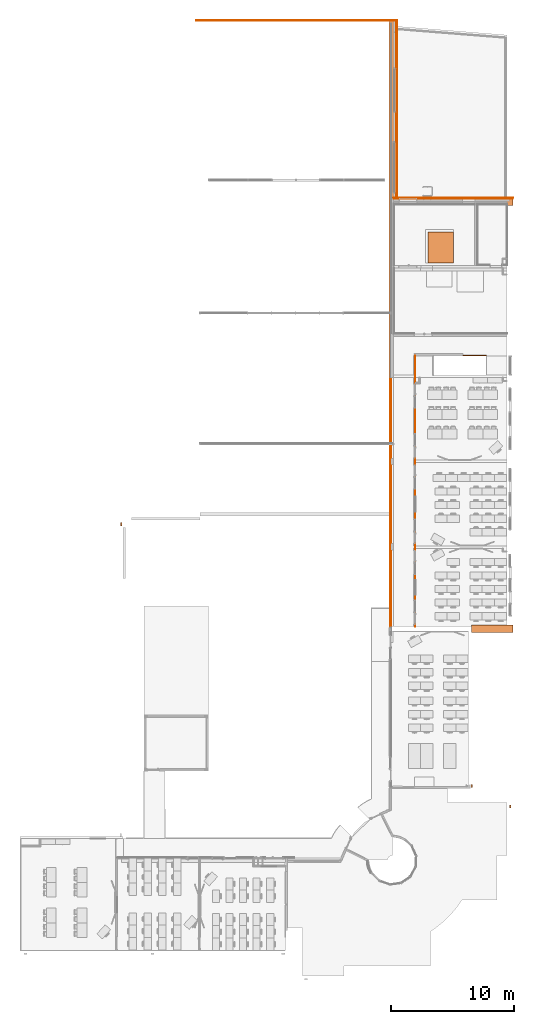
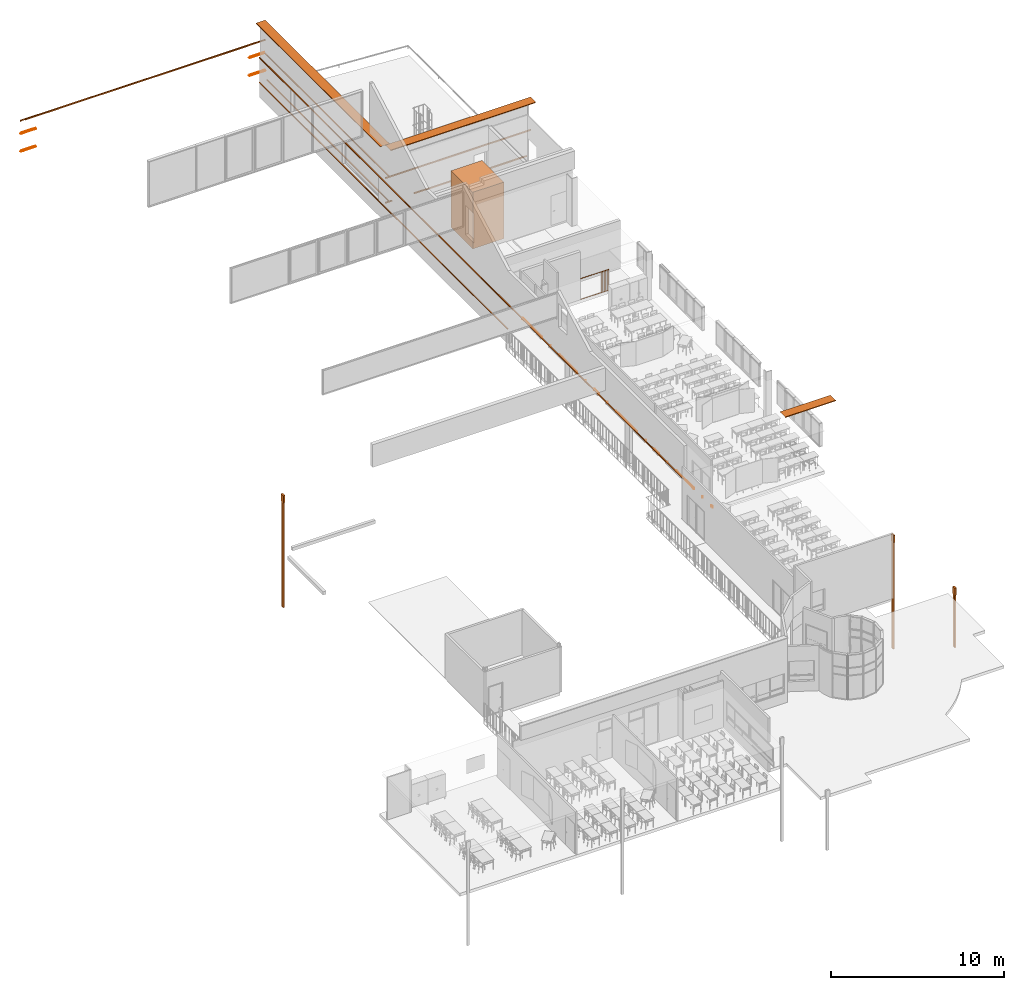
# One storey, part 44 of 44: 18 proxies.
"""IFC2X3 building model written with IfcOpenShell, lengths in centimetres."""

from ifc_helpers import new_model, entity, si_unit, converted_unit, derived_unit, direction, frame, frame_2d, origin, origin_2d_with_axis, place, context, subcontext, project, spatial, polyline, rectangle, circle, outline, extrude, source, transform, mapped, material, type_object, type_shapes, element, save


model = new_model("IFC2X3")

# Units and contexts
model_context = context("Model", 3, precision=0.001, world=origin(), true_north=direction((6.12303176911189e-17, 1.0)))
body_context = subcontext(model_context, "Body", "Model", "MODEL_VIEW")
ifc_project = project(units=[si_unit("LENGTHUNIT", "METRE", prefix="CENTI"), si_unit("AREAUNIT", "SQUARE_METRE"), si_unit("VOLUMEUNIT", "CUBIC_METRE"), converted_unit("PLANEANGLEUNIT", "DEGREE", entity("IfcRatioMeasure", 0.0174532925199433), si_unit("PLANEANGLEUNIT", "RADIAN"), dimensions=[0, 0, 0, 0, 0, 0, 0]), si_unit("MASSUNIT", "GRAM", prefix="KILO"), si_unit("TIMEUNIT", "SECOND"), si_unit("FREQUENCYUNIT", "HERTZ"), si_unit("THERMODYNAMICTEMPERATUREUNIT", "DEGREE_CELSIUS"), derived_unit("THERMALTRANSMITTANCEUNIT", [(si_unit("MASSUNIT", "GRAM", prefix="KILO"), 1), (si_unit("THERMODYNAMICTEMPERATUREUNIT", "KELVIN"), -1), (si_unit("TIMEUNIT", "SECOND"), -3)]), derived_unit("VOLUMETRICFLOWRATEUNIT", [(si_unit("LENGTHUNIT", "METRE"), 3), (si_unit("TIMEUNIT", "SECOND"), -1)]), si_unit("ELECTRICCURRENTUNIT", "AMPERE"), si_unit("ELECTRICVOLTAGEUNIT", "VOLT"), si_unit("POWERUNIT", "WATT"), si_unit("FORCEUNIT", "NEWTON", prefix="KILO"), si_unit("ILLUMINANCEUNIT", "LUX"), si_unit("LUMINOUSFLUXUNIT", "LUMEN"), si_unit("LUMINOUSINTENSITYUNIT", "CANDELA"), derived_unit("USERDEFINED", [(si_unit("MASSUNIT", "GRAM", prefix="KILO"), -1), (si_unit("LENGTHUNIT", "METRE"), -2), (si_unit("TIMEUNIT", "SECOND"), 3), (si_unit("LUMINOUSFLUXUNIT", "LUMEN"), 1)]), derived_unit("LINEARVELOCITYUNIT", [(si_unit("LENGTHUNIT", "METRE"), 1), (si_unit("TIMEUNIT", "SECOND"), -1)]), si_unit("PRESSUREUNIT", "PASCAL"), derived_unit("USERDEFINED", [(si_unit("LENGTHUNIT", "METRE"), -2), (si_unit("MASSUNIT", "GRAM", prefix="KILO"), 1), (si_unit("TIMEUNIT", "SECOND"), -2)])], contexts=[model_context])

# Site, building, storey
site_placement = place(None, frame((8.62739174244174, -249.285249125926, 0.0)))
site = spatial("IfcSite", under=ifc_project, at=site_placement, Name="Default", CompositionType="ELEMENT")
building_placement = place(site_placement, origin())
building = spatial("IfcBuilding", under=site, at=building_placement, CompositionType="ELEMENT")
storey_placement = place(building_placement, frame((0.0, 0.0, 343.0)))
storey = spatial("IfcBuildingStorey", under=building, at=storey_placement, Name="R+1", CompositionType="ELEMENT", Elevation=343.0)

# Proxies
ifc_material = material(Name="Forme par défaut")
building_element_proxy_type_1 = type_object("IfcBuildingElementProxyType", Name="Multi-cyclone", PredefinedType="NOTDEFINED", material=ifc_material)
shared_shape_1 = source(origin(), body_context, "Body", "SweptSolid", [
    extrude(rectangle(XDim=207.2, YDim=252.9, at=frame_2d((-2.1316282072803e-13, 0.0), x_axis=(1.0, 0.0))), frame((3438.57372225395, 5741.41731689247, 343.0), z_axis=(0.0, 0.0, 1.0), x_axis=(-1.0, 0.0, 0.0)), (0.0, 0.0, 1.0), 400.0),
])
type_shapes(building_element_proxy_type_1, [shared_shape_1])
proxy_1_placement = place(storey_placement, frame((0.0, 0.0, -343.0)))
element("IfcBuildingElementProxy", 1, at=proxy_1_placement, inside=storey, type_object=building_element_proxy_type_1, material=ifc_material, Name="Multi-cyclone:Multi-cyclone", ObjectType="Multi-cyclone", context=body_context, shape_type="MappedRepresentation", body=[
    mapped(shared_shape_1, transform((0.0, 0.0, 0.0), scale=1.0)),
])
building_element_proxy_type_2 = type_object("IfcBuildingElementProxyType", Name="descenteEP", PredefinedType="NOTDEFINED")
shared_shape_2 = source(origin(), body_context, "Body", "SweptSolid", [
    extrude(rectangle(XDim=10.0, YDim=17.0, at=frame_2d((0.0, 3.5527136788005e-15), x_axis=(1.0, 0.0))), frame((0.0, 0.0, -373.3), z_axis=(0.0, 0.0, 1.0), x_axis=(0.0, -1.0, 0.0)), (0.0, 0.0, 1.0), 373.3),
    extrude(rectangle(XDim=12.0, YDim=25.0, at=origin_2d_with_axis()), frame((0.0, 0.0, 0.0), z_axis=(0.0, 0.0, 1.0), x_axis=(0.0, 1.0, 0.0)), (0.0, 0.0, 1.0), 50.5380588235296),
])
type_shapes(building_element_proxy_type_2, [shared_shape_2])
proxy_2_placement = place(storey_placement, frame((4004.90482781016, 1191.9802080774, 5.0), z_axis=(0.0, 0.0, 1.0), x_axis=(0.0, 1.0, 0.0)))
element("IfcBuildingElementProxy", 2, at=proxy_2_placement, inside=storey, type_object=building_element_proxy_type_2, Name="descenteEP:descenteEP", ObjectType="descenteEP", context=body_context, shape_type="MappedRepresentation", body=[
    mapped(shared_shape_2, transform((0.0, 0.0, 0.0), scale=1.0)),
])
building_element_proxy_type_3 = type_object("IfcBuildingElementProxyType", Name="descenteEP", PredefinedType="NOTDEFINED")
shared_shape_3 = source(origin(), body_context, "Body", "SweptSolid", [
    extrude(rectangle(XDim=10.0, YDim=17.0, at=frame_2d((0.0, 3.5527136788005e-15), x_axis=(1.0, 0.0))), frame((0.0, 0.0, -744.0), z_axis=(0.0, 0.0, 1.0), x_axis=(0.0, -1.0, 0.0)), (0.0, 0.0, 1.0), 744.0),
    extrude(rectangle(XDim=12.0, YDim=25.0, at=origin_2d_with_axis()), frame((0.0, 0.0, 0.0), z_axis=(0.0, 0.0, 1.0), x_axis=(0.0, 1.0, 0.0)), (0.0, 0.0, 1.0), 50.5380588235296),
])
type_shapes(building_element_proxy_type_3, [shared_shape_3])
proxy_3_placement = place(storey_placement, frame((837.904606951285, 3488.48, 376.0), z_axis=(0.0, 0.0, 1.0), x_axis=(0.0, -1.0, 0.0)))
element("IfcBuildingElementProxy", 3, at=proxy_3_placement, inside=storey, type_object=building_element_proxy_type_3, Name="descenteEP:descenteEP", ObjectType="descenteEP", context=body_context, shape_type="MappedRepresentation", body=[
    mapped(shared_shape_3, transform((0.0, 0.0, 0.0), scale=1.0)),
])
building_element_proxy_type_4 = type_object("IfcBuildingElementProxyType", Name="descenteEP", PredefinedType="NOTDEFINED")
shared_shape_4 = source(origin(), body_context, "Body", "SweptSolid", [
    extrude(rectangle(XDim=10.0, YDim=17.0, at=frame_2d((0.0, 3.5527136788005e-15), x_axis=(1.0, 0.0))), frame((0.0, 0.0, -756.0), z_axis=(0.0, 0.0, 1.0), x_axis=(0.0, -1.0, 0.0)), (0.0, 0.0, 1.0), 756.0),
    extrude(rectangle(XDim=12.0, YDim=25.0, at=origin_2d_with_axis()), frame((0.0, 0.0, 0.0), z_axis=(0.0, 0.0, 1.0), x_axis=(0.0, 1.0, 0.0)), (0.0, 0.0, 1.0), 50.5380588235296),
])
type_shapes(building_element_proxy_type_4, [shared_shape_4])
proxy_4_placement = place(storey_placement, frame((3688.90482780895, 1358.48020807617, 388.0), z_axis=(0.0, 0.0, 1.0), x_axis=(0.0, -1.0, 0.0)))
element("IfcBuildingElementProxy", 4, at=proxy_4_placement, inside=storey, type_object=building_element_proxy_type_4, Name="descenteEP:descenteEP", ObjectType="descenteEP", context=body_context, shape_type="MappedRepresentation", body=[
    mapped(shared_shape_4, transform((0.0, 0.0, 0.0), scale=1.0)),
])

# Space
space_placement = place(storey_placement, origin())
space = spatial("IfcSpace", under=storey, at=space_placement, Name="087", CompositionType="ELEMENT", InteriorOrExteriorSpace="INTERNAL")

# Proxies
building_element_proxy_type_5 = type_object("IfcBuildingElementProxyType", Name="Garde-corps_R+1-esc-1", PredefinedType="NOTDEFINED")
shared_shape_5 = source(origin(), body_context, "Body", "SweptSolid", [
    extrude(circle(Radius=0.5, at=frame_2d((0.0, -8.45989944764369e-16), x_axis=(1.0, 0.0))), frame((190.0, 2.49999999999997, -7.68414986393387)), (0.0, 0.0, 1.0), 155.684149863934),
    extrude(circle(Radius=0.5, at=frame_2d((0.0, -8.45989944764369e-16), x_axis=(1.0, 0.0))), frame((0.0, 2.49999999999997, -7.68414986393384)), (0.0, 0.0, 1.0), 155.684149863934),
    extrude(circle(Radius=0.5, at=frame_2d((0.0, -8.45989944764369e-16), x_axis=(1.0, 0.0))), frame((180.0, 2.49999999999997, 1.0)), (0.0, 0.0, 1.0), 146.0),
    extrude(circle(Radius=0.5, at=frame_2d((0.0, -8.45989944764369e-16), x_axis=(1.0, 0.0))), frame((170.0, 2.49999999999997, 1.0)), (0.0, 0.0, 1.0), 146.0),
    extrude(circle(Radius=0.5, at=frame_2d((0.0, -8.45989944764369e-16), x_axis=(1.0, 0.0))), frame((160.0, 2.49999999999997, 1.0)), (0.0, 0.0, 1.0), 146.0),
    extrude(circle(Radius=0.5, at=frame_2d((0.0, -8.45989944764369e-16), x_axis=(1.0, 0.0))), frame((150.0, 2.49999999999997, 1.0)), (0.0, 0.0, 1.0), 146.0),
    extrude(circle(Radius=0.5, at=frame_2d((0.0, -8.45989944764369e-16), x_axis=(1.0, 0.0))), frame((150.0, 2.49999999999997, 1.0)), (0.0, 0.0, 1.0), 146.0),
    extrude(circle(Radius=0.5, at=frame_2d((0.0, -8.45989944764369e-16), x_axis=(1.0, 0.0))), frame((140.0, 2.49999999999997, 1.0)), (0.0, 0.0, 1.0), 146.0),
    extrude(circle(Radius=0.5, at=frame_2d((0.0, -8.45989944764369e-16), x_axis=(1.0, 0.0))), frame((130.0, 2.49999999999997, 1.0)), (0.0, 0.0, 1.0), 146.0),
    extrude(circle(Radius=0.5, at=frame_2d((0.0, -8.45989944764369e-16), x_axis=(1.0, 0.0))), frame((120.0, 2.49999999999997, 1.0)), (0.0, 0.0, 1.0), 146.0),
    extrude(circle(Radius=0.5, at=frame_2d((0.0, -8.45989944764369e-16), x_axis=(1.0, 0.0))), frame((110.0, 2.49999999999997, 1.0)), (0.0, 0.0, 1.0), 146.0),
    extrude(circle(Radius=0.5, at=frame_2d((0.0, -8.45989944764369e-16), x_axis=(1.0, 0.0))), frame((100.0, 2.49999999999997, 1.0)), (0.0, 0.0, 1.0), 146.0),
    extrude(circle(Radius=0.5, at=frame_2d((0.0, -8.45989944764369e-16), x_axis=(1.0, 0.0))), frame((90.0, 2.49999999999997, 1.0)), (0.0, 0.0, 1.0), 146.0),
    extrude(circle(Radius=0.5, at=frame_2d((0.0, -8.45989944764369e-16), x_axis=(1.0, 0.0))), frame((80.0, 2.49999999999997, 1.0)), (0.0, 0.0, 1.0), 146.0),
    extrude(circle(Radius=0.5, at=frame_2d((0.0, -8.45989944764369e-16), x_axis=(1.0, 0.0))), frame((70.0, 2.49999999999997, 1.0)), (0.0, 0.0, 1.0), 146.0),
    extrude(circle(Radius=0.5, at=frame_2d((0.0, -8.45989944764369e-16), x_axis=(1.0, 0.0))), frame((60.0, 2.49999999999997, 1.0)), (0.0, 0.0, 1.0), 146.0),
    extrude(circle(Radius=0.5, at=frame_2d((0.0, -8.45989944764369e-16), x_axis=(1.0, 0.0))), frame((50.0, 2.49999999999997, 1.0)), (0.0, 0.0, 1.0), 146.0),
    extrude(circle(Radius=0.5, at=frame_2d((0.0, -8.45989944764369e-16), x_axis=(1.0, 0.0))), frame((40.0, 2.49999999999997, 1.0)), (0.0, 0.0, 1.0), 146.0),
    extrude(circle(Radius=0.5, at=frame_2d((0.0, -8.45989944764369e-16), x_axis=(1.0, 0.0))), frame((30.0, 2.49999999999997, 1.0)), (0.0, 0.0, 1.0), 146.0),
    extrude(circle(Radius=0.5, at=frame_2d((0.0, -8.45989944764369e-16), x_axis=(1.0, 0.0))), frame((20.0, 2.49999999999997, 1.0)), (0.0, 0.0, 1.0), 146.0),
    extrude(circle(Radius=0.5, at=frame_2d((0.0, -8.45989944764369e-16), x_axis=(1.0, 0.0))), frame((10.0, 2.49999999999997, 1.0)), (0.0, 0.0, 1.0), 146.0),
    extrude(rectangle(XDim=5.0, YDim=190.0, at=frame_2d((0.0, -1.4210854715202e-14), x_axis=(1.0, 0.0))), frame((95.0, 2.49999999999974, 147.0), z_axis=(0.0, 0.0, 1.0), x_axis=(0.0, 1.0, 0.0)), (0.0, 0.0, 1.0), 0.999999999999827),
    extrude(rectangle(XDim=5.0, YDim=190.0, at=frame_2d((2.22044604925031e-16, -1.4210854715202e-14), x_axis=(1.0, 0.0))), frame((95.0, 2.49999999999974, 0.0), z_axis=(0.0, 0.0, 1.0), x_axis=(0.0, 1.0, 0.0)), (0.0, 0.0, 1.0), 1.0),
])
type_shapes(building_element_proxy_type_5, [shared_shape_5])
proxy_5_placement = place(space_placement, frame((3808.90482771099, 4862.98020813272, 0.0), z_axis=(0.0, 0.0, 1.0), x_axis=(-1.0, 0.0, 0.0)))
element("IfcBuildingElementProxy", 5, at=proxy_5_placement, inside=space, type_object=building_element_proxy_type_5, Name="Garde-corps_R+1-esc-1:Garde-corps_R+1-esc-1", ObjectType="Garde-corps_R+1-esc-1", context=body_context, shape_type="MappedRepresentation", body=[
    mapped(shared_shape_5, transform((0.0, 0.0, 0.0), scale=1.0)),
])
proxy_6_placement = place(storey_placement, origin())
element("IfcBuildingElementProxy", 6, at=proxy_6_placement, inside=storey, Name="Profil en relief:Profil-acier-5x5", ObjectType="Profil en relief:Profil-acier-5x5", context=body_context, shape_type="SweptSolid", body=[
    extrude(rectangle(XDim=1419.99999993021, YDim=6.99999999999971, at=frame_2d((-4.54747350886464e-13, -2.16715534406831e-13), x_axis=(1.0, 0.0))), frame((3080.40482779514, 6850.9802081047, 103.0), z_axis=(0.0, 0.0, 1.0), x_axis=(0.0, -1.0, 0.0)), (0.0, 0.0, 1.0), 4.99999999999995),
])
proxy_7_placement = place(storey_placement, origin())
element("IfcBuildingElementProxy", 7, at=proxy_7_placement, inside=storey, Name="Profil en relief:Profil-acier-5x5", ObjectType="Profil en relief:Profil-acier-5x5", context=body_context, shape_type="SweptSolid", body=[
    extrude(rectangle(XDim=103.00000000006, YDim=7.00000000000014, at=frame_2d((0.0, -8.66418048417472e-13), x_axis=(1.0, 0.0))), frame((3029.40482780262, 7588.47694586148, 278.0)), (0.0, 0.0, 1.0), 5.00000000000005),
    extrude(rectangle(XDim=104.00000000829, YDim=7.00000000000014, at=frame_2d((1.10134124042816e-13, 0.0), x_axis=(1.0, 0.0))), frame((1498.90482779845, 7588.47694586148, 278.0)), (0.0, 0.0, 1.0), 5.00000000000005),
])
proxy_8_placement = place(storey_placement, origin())
element("IfcBuildingElementProxy", 8, at=proxy_8_placement, inside=storey, Name="Profil en relief:Profil-acier-5x5", ObjectType="Profil en relief:Profil-acier-5x5", context=body_context, shape_type="SweptSolid", body=[
    extrude(outline(polyline([(-417.750000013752, -2.74990138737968), (-414.750000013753, -2.74990138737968), (-414.750000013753, 1.24970416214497), (-387.750000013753, 1.2497041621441), (-387.750000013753, -2.74990138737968), (1220.25000004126, -2.74990138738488), (1220.25000004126, 4.25009861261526), (-417.750000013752, 4.25009861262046), (-417.750000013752, -2.74990138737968)])), frame((1864.65482780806, 7587.72684724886, 367.0)), (0.0, 0.0, 1.0), 5.00000000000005),
])
proxy_9_placement = place(storey_placement, origin())
element("IfcBuildingElementProxy", 9, at=proxy_9_placement, inside=storey, Name="Profil en relief:Profil-acier-5x5", ObjectType="Profil en relief:Profil-acier-5x5", context=body_context, shape_type="SweptSolid", body=[
    extrude(rectangle(XDim=107.500000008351, YDim=7.00000000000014, at=frame_2d((0.0, -8.66418048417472e-13), x_axis=(1.0, 0.0))), frame((3031.65482780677, 7588.47694586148, 152.0)), (0.0, 0.0, 1.0), 5.00000000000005),
    extrude(rectangle(XDim=104.00000000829, YDim=7.00000000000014, at=frame_2d((9.00000000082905, 0.699999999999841), x_axis=(1.0, 0.0))), frame((1489.90482779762, 7587.77694586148, 152.0)), (0.0, 0.0, 1.0), 5.00000000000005),
])
proxy_10_placement = place(storey_placement, origin())
element("IfcBuildingElementProxy", 10, at=proxy_10_placement, inside=storey, Name="Profil en relief:Profil-acier-5x5", ObjectType="Profil en relief:Profil-acier-5x5", context=body_context, shape_type="SweptSolid", body=[
    extrude(outline(polyline([(-489.250000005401, -3.50000000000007), (485.7500000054, -3.50000000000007), (485.7500000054, 3.50000000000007), (-482.250000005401, 3.50000000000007), (-489.250000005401, -3.50000000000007)])), frame((3539.65482780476, 6141.4802081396, 278.0), z_axis=(0.0, 0.0, 1.0), x_axis=(-1.0, 0.0, 0.0)), (0.0, 0.0, 1.0), 4.99999999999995),
])
proxy_11_placement = place(storey_placement, origin())
element("IfcBuildingElementProxy", 11, at=proxy_11_placement, inside=storey, Name="Profil en relief:profil-couvertine", ObjectType="Profil en relief:profil-couvertine", context=body_context, shape_type="SweptSolid", body=[
    extrude(outline(polyline([(-30.4798097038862, -3.07162007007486), (30.5201902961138, -3.07162007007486), (30.520190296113, 1.92837992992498), (29.0201902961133, 1.9283799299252), (29.0201902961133, 1.82837992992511), (30.4201902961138, 1.82837992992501), (30.4201902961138, -2.97162007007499), (-30.3798097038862, -2.97162007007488), (-30.3798097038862, 1.68695857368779), (-29.1363068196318, 0.443455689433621), (-29.0655961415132, 0.514166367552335), (-30.4798097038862, 1.92837992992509), (-30.4798097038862, -3.07162007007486)])), frame((3053.90482779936, 6113.50039843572, 508.928379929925), z_axis=(1.0, 0.0, 0.0), x_axis=(0.0, -1.0, 0.0)), (0.0, 0.0, 1.0), 972.000000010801),
])
proxy_12_placement = place(storey_placement, origin())
element("IfcBuildingElementProxy", 12, at=proxy_12_placement, inside=storey, Name="Profil en relief:Profil-acier-5x5", ObjectType="Profil en relief:Profil-acier-5x5", context=body_context, shape_type="SweptSolid", body=[
    extrude(rectangle(XDim=42.5000000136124, YDim=7.00000000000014, at=frame_2d((2.16715534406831e-13, 0.0), x_axis=(1.0, 0.0))), frame((3075.15482780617, 6141.4802081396, 102.993440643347), z_axis=(0.0, 0.0, 1.0), x_axis=(-1.0, 0.0, 0.0)), (0.0, 0.0, 1.0), 4.99999999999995),
    extrude(rectangle(XDim=753.499999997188, YDim=7.00000000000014, at=origin_2d_with_axis()), frame((3622.15482781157, 6141.4802081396, 102.993440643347), z_axis=(0.0, 0.0, 1.0), x_axis=(-1.0, 0.0, 0.0)), (0.0, 0.0, 1.0), 5.0),
])
proxy_13_placement = place(storey_placement, origin())
element("IfcBuildingElementProxy", 13, at=proxy_13_placement, inside=storey, Name="Profil en relief:Plinthe-10x2", ObjectType="Profil en relief:Plinthe-10x2", context=body_context, shape_type="SweptSolid", body=[
    extrude(rectangle(XDim=1.50000000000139, YDim=1.99999999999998, at=frame_2d((0.0, 2.16604512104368e-13), x_axis=(1.0, 0.0))), frame((3230.90482780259, 4532.23020813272, 0.0), z_axis=(0.0, 0.0, 1.0), x_axis=(0.0, 1.0, 0.0)), (0.0, 0.0, 1.0), 10.0),
    extrude(rectangle(XDim=204.295014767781, YDim=1.99999999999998, at=frame_2d((0.0, 4.33153513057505e-13), x_axis=(1.0, 0.0))), frame((3230.90482780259, 4329.33270074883, 0.0), z_axis=(0.0, 0.0, 1.0), x_axis=(0.0, 1.0, 0.0)), (0.0, 0.0, 1.0), 10.0),
    extrude(rectangle(XDim=1.00000000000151, YDim=1.99999999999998, at=frame_2d((0.0, -2.16604512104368e-13), x_axis=(1.0, 0.0))), frame((3230.90482780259, 4126.68519336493, 0.0), z_axis=(0.0, 0.0, 1.0), x_axis=(0.0, 1.0, 0.0)), (0.0, 0.0, 1.0), 10.0),
    extrude(rectangle(XDim=51.9999999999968, YDim=1.99999999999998, at=frame_2d((0.0, -2.16604512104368e-13), x_axis=(1.0, 0.0))), frame((3230.90482780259, 4000.18519336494, 0.0), z_axis=(0.0, 0.0, 1.0), x_axis=(0.0, 1.0, 0.0)), (0.0, 0.0, 1.0), 10.0),
    extrude(rectangle(XDim=1.00000000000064, YDim=1.99999999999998, at=frame_2d((4.33153513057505e-13, 2.16604512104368e-13), x_axis=(1.0, 0.0))), frame((3230.90482780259, 3873.68519336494, 0.0), z_axis=(0.0, 0.0, 1.0), x_axis=(0.0, 1.0, 0.0)), (0.0, 0.0, 1.0), 10.0),
    extrude(rectangle(XDim=243.000000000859, YDim=1.99999999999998, at=frame_2d((0.0, -4.33153513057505e-13), x_axis=(1.0, 0.0))), frame((3230.90482780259, 3651.68519336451, 0.0), z_axis=(0.0, 0.0, 1.0), x_axis=(0.0, 1.0, 0.0)), (0.0, 0.0, 1.0), 10.0),
    extrude(rectangle(XDim=1.00000000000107, YDim=1.99999999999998, at=frame_2d((2.16549000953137e-13, 2.16604512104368e-13), x_axis=(1.0, 0.0))), frame((3230.90482780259, 3429.68519336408, 0.0), z_axis=(0.0, 0.0, 1.0), x_axis=(0.0, 1.0, 0.0)), (0.0, 0.0, 1.0), 10.0),
    extrude(rectangle(XDim=51.9999999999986, YDim=1.99999999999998, at=frame_2d((0.0, 2.16604512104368e-13), x_axis=(1.0, 0.0))), frame((3230.90482780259, 3303.18519336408, 0.0), z_axis=(0.0, 0.0, 1.0), x_axis=(0.0, 1.0, 0.0)), (0.0, 0.0, 1.0), 10.0),
    extrude(rectangle(XDim=1.00000000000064, YDim=1.99999999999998, at=frame_2d((0.0, -2.16604512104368e-13), x_axis=(1.0, 0.0))), frame((3230.90482780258, 3176.68519336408, 0.0), z_axis=(0.0, 0.0, 1.0), x_axis=(0.0, 1.0, 0.0)), (0.0, 0.0, 1.0), 10.0),
    extrude(rectangle(XDim=204.204985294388, YDim=1.99999999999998, at=frame_2d((2.20268248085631e-13, 0.0), x_axis=(1.0, 0.0))), frame((3230.90482780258, 2974.08270071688, 0.0), z_axis=(0.0, 0.0, 1.0), x_axis=(0.0, 1.0, 0.0)), (0.0, 0.0, 1.0), 10.0),
    extrude(rectangle(XDim=1.00000000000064, YDim=1.99999999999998, at=frame_2d((4.33153513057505e-13, 2.16604512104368e-13), x_axis=(1.0, 0.0))), frame((3230.90482780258, 2771.48020806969, 0.0), z_axis=(0.0, 0.0, 1.0), x_axis=(0.0, 1.0, 0.0)), (0.0, 0.0, 1.0), 10.0),
    extrude(rectangle(XDim=16.0000000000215, YDim=1.99999999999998, at=frame_2d((0.0, -2.16604512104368e-13), x_axis=(1.0, 0.0))), frame((3230.90482780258, 2662.98020806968, 0.0), z_axis=(0.0, 0.0, 1.0), x_axis=(0.0, 1.0, 0.0)), (0.0, 0.0, 1.0), 10.0),
    extrude(rectangle(XDim=224.999999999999, YDim=1.99999999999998, at=frame_2d((0.0, -4.33153513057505e-13), x_axis=(1.0, 0.0))), frame((3230.90482780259, 4745.48020813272, 0.0), z_axis=(0.0, 0.0, 1.0), x_axis=(0.0, 1.0, 0.0)), (0.0, 0.0, 1.0), 10.0),
])
proxy_14_placement = place(storey_placement, origin())
element("IfcBuildingElementProxy", 14, at=proxy_14_placement, inside=storey, Name="Profil en relief:Profil-acier-5x5", ObjectType="Profil en relief:Profil-acier-5x5", context=body_context, shape_type="SweptSolid", body=[
    extrude(rectangle(XDim=1449.99673772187, YDim=6.99999999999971, at=origin_2d_with_axis()), frame((3080.40482779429, 6866.97857700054, 278.0), z_axis=(0.0, 0.0, 1.0), x_axis=(0.0, 1.0, 0.0)), (0.0, 0.0, 1.0), 4.99999999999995),
])
proxy_15_placement = place(storey_placement, origin())
element("IfcBuildingElementProxy", 15, at=proxy_15_placement, inside=storey, Name="Profil en relief:Profil-acier-5x5", ObjectType="Profil en relief:Profil-acier-5x5", context=body_context, shape_type="SweptSolid", body=[
    extrude(rectangle(XDim=2878.99634327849, YDim=6.99999999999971, at=origin_2d_with_axis()), frame((3030.40482783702, 6122.47837977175, 103.0), z_axis=(0.0, 0.0, 1.0), x_axis=(0.0, 1.0, 0.0)), (0.0, 0.0, 1.0), 4.99999999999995),
])
proxy_16_placement = place(storey_placement, origin())
element("IfcBuildingElementProxy", 16, at=proxy_16_placement, inside=storey, Name="Profil en relief:Profil-acier-5x5", ObjectType="Profil en relief:Profil-acier-5x5", context=body_context, shape_type="SweptSolid", body=[
    extrude(rectangle(XDim=4916.0, YDim=6.99999999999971, at=frame_2d((0.0, -4.33209024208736e-13), x_axis=(1.0, 0.0))), frame((3030.40482780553, 5102.98020806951, 278.0), z_axis=(0.0, 0.0, 1.0), x_axis=(0.0, -1.0, 0.0)), (0.0, 0.0, 1.0), 4.99999999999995),
])
proxy_17_placement = place(storey_placement, origin())
element("IfcBuildingElementProxy", 17, at=proxy_17_placement, inside=storey, Name="Profil en relief:profil-couvertine", ObjectType="Profil en relief:profil-couvertine", context=body_context, shape_type="SweptSolid", body=[
    extrude(outline(polyline([(-3.07162007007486, -30.4798097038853), (1.92837992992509, -30.4798097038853), (0.514166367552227, -29.0655961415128), (0.443455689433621, -29.1363068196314), (1.68695857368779, -30.3798097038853), (-2.97162007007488, -30.3798097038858), (-2.97162007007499, 30.4201902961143), (1.82837992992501, 30.4201902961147), (1.82837992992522, 29.0201902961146), (1.92837992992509, 29.0201902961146), (1.92837992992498, 30.5201902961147), (-3.07162007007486, 30.5201902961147), (-3.07162007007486, -30.4798097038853)])), frame((3052.42501810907, 6141.9802081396, 509.928379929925), z_axis=(0.0, 1.0, 0.0), x_axis=(0.0, 0.0, -1.0)), (0.0, 0.0, 1.0), 1442.5),
])
proxy_18_placement = place(storey_placement, origin())
element("IfcBuildingElementProxy", 18, at=proxy_18_placement, inside=storey, Name="Profil en relief:profil-couvertine", ObjectType="Profil en relief:profil-couvertine", context=body_context, shape_type="SweptSolid", body=[
    extrude(outline(polyline([(-3.07162007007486, -30.4798097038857), (1.92837992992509, -30.4798097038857), (0.514166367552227, -29.0655961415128), (0.443455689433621, -29.1363068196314), (1.68695857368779, -30.3798097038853), (-2.97162007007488, -30.3798097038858), (-2.97162007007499, 30.4201902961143), (1.82837992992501, 30.4201902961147), (1.82837992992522, 29.0201902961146), (1.92837992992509, 29.0201902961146), (1.92837992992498, 30.5201902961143), (-3.07162007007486, 30.5201902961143), (-3.07162007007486, -30.4798097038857)])), frame((3686.90482780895, 2636.46001777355, 508.928379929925), z_axis=(1.0, 0.0, 0.0), x_axis=(0.0, 0.0, -1.0)), (0.0, 0.0, 1.0), 339.000000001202),
])

save(model, "model.ifc")
